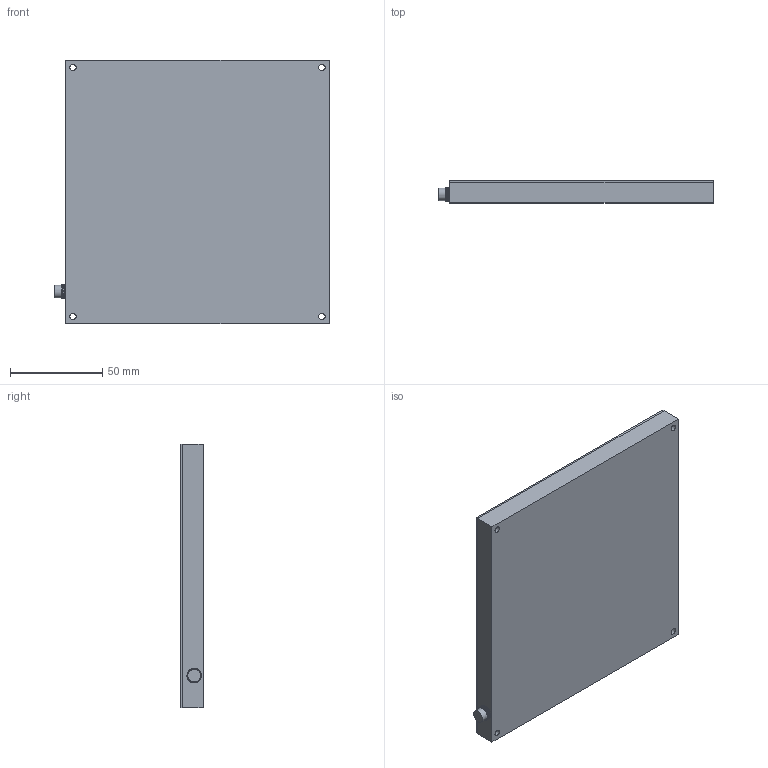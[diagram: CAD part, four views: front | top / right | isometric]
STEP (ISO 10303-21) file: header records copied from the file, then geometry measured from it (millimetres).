
FILE_DESCRIPTION(/* description */ (''),/* implementation_level */ '2;1');
FILE_NAME(/* name */ 'C:\#Vault-WorkDir\Konstruktions-Dokumente\Projekte\Zubehör allgemein\Falcon Beleuchtungen\153-00829_LF 100 A WD-24-KFL5-65.stp',/* time_stamp */ '2018-07-26T10:23:08+02:00',/* author */ ('SensoPart'),/* organization */ ('SensoPart'),/* preprocessor_version */ 'ST-DEVELOPER v17',/* originating_system */ 'Autodesk Inventor 2018',/* authorisation */ '');
FILE_SCHEMA (('AUTOMOTIVE_DESIGN { 1 0 10303 214 3 1 1 }'));
Length unit declared in the file: millimetre
Products named in the file (1): GH-ENG-0026214_Shrinkwrap_1
Bounding box: 148.9 x 12 x 143 mm (x, y, z)
Volume: 242741 mm3; surface area: 48645.6 mm2
Topology: 1 solids, 1 shells, 64 faces, 167 edges, 124 vertices
Faces by surface type: plane 33, cylinder 17, cone 12, bspline 2
Full cylindrical faces by diameter (mm): 3.4 x4, 6 x8, 6.9 x1, 7.85 x2
Entity records: 3115 total; most frequent: CARTESIAN_POINT 1371, DIRECTION 376, ORIENTED_EDGE 334, EDGE_CURVE 167, AXIS2_PLACEMENT_3D 158, VERTEX_POINT 124, CIRCLE 95, EDGE_LOOP 91
